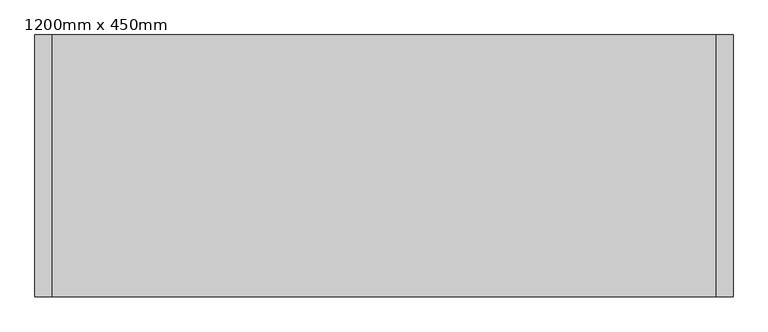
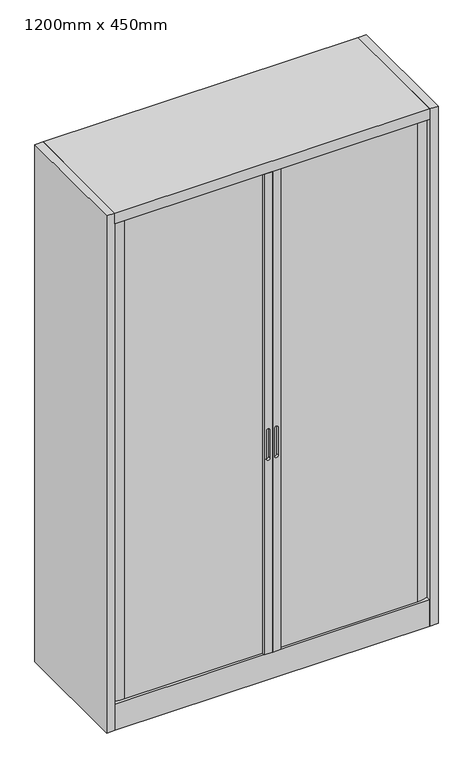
"""IFC4 building model written with IfcOpenShell, lengths in millimetres: furniture geometry."""

from ifc_helpers import new_model, si_unit, point, frame, frame_2d, origin, origin_with_axes, place, context, project, spatial, polyline, circle_curve, trimmed, segment, composite_curve, outline, extrude, source, transform, mapped, element, save
from ifc_brep_helpers import plane_surface, revolved_surface, advanced_brep


def furniture_1200mm_x_450mm_012c86cd(model_context):
    return source(origin(), model_context, "Body", "SolidModel", [
        extrude(outline(polyline([(670.0, 275.0), (670.0, -175.0), (-470.0, -175.0), (-470.0, 275.0), (670.0, 275.0)])), frame((0.0, 0.0, 1940.0), z_axis=(0.0, 0.0, 1.0), x_axis=(1.0, 0.0, 0.0)), (0.0, 0.0, 1.0), 40.0),
        extrude(outline(polyline([(-470.0, -175.0), (-500.0, -175.0), (-500.0, 275.0), (-470.0, 275.0), (-470.0, -175.0)])), origin_with_axes(), (0.0, 0.0, 1.0), 1980.0),
        extrude(outline(polyline([(700.0, 275.0), (700.0, -175.0), (670.0, -175.0), (670.0, 275.0), (700.0, 275.0)])), origin_with_axes(), (0.0, 0.0, 1.0), 1980.0),
        advanced_brep(
        [(70.0, -155.0, 1940.0), (70.0, -175.0, 1940.0), (99.0, -175.0, 1940.0), (100.0, -174.0, 1940.0), (101.0, -175.0, 1940.0), (130.0, -175.0, 1940.0), (130.0, -155.0, 1940.0), (70.0, -155.0, 100.0), (130.0, -155.0, 100.0), (130.0, -175.0, 100.0), (101.0, -175.0, 100.0), (100.0, -174.0, 100.0), (99.0, -175.0, 100.0), (70.0, -175.0, 100.0), (91.0, -175.0, 954.0), (91.0, -175.0, 846.0), (79.0, -175.0, 846.0), (79.0, -175.0, 954.0), (109.0, -175.0, 846.0), (109.0, -175.0, 954.0), (121.0, -175.0, 954.0), (121.0, -175.0, 846.0), (79.0, -165.0, 846.0), (91.0, -165.0, 846.0), (91.0, -165.0, 954.0), (79.0, -165.0, 954.0), (109.0, -165.0, 954.0), (109.0, -165.0, 846.0), (121.0, -165.0, 846.0), (121.0, -165.0, 954.0)],
        [
            (0, 1),
            (1, 2),
            (2, 3),
            (3, 4),
            (4, 5),
            (5, 6),
            (6, 0),
            (7, 8),
            (8, 9),
            (9, 10),
            (10, 11),
            (11, 12),
            (12, 13),
            (13, 7),
            (0, 7),
            (13, 1),
            (12, 2),
            (14, 15),
            (15, 16, circle_curve(frame((85.0, -175.0, 846.0), z_axis=(0.0, 1.0, 0.0), x_axis=(1.0, 0.0, 0.0)), 6.0)),
            (16, 17),
            (17, 14, circle_curve(frame((85.0, -175.0, 954.0), z_axis=(0.0, 1.0, 0.0), x_axis=(1.0, 0.0, 0.0)), 6.0)),
            (11, 3),
            (10, 4),
            (9, 5),
            (18, 19),
            (19, 20, circle_curve(frame((115.0, -175.0, 954.0), z_axis=(0.0, 1.0, 0.0), x_axis=(1.0, 0.0, 0.0)), 6.0)),
            (20, 21),
            (21, 18, circle_curve(frame((115.0, -175.0, 846.0), z_axis=(0.0, 1.0, 0.0), x_axis=(1.0, 0.0, 0.0)), 6.0)),
            (8, 6),
            (22, 23, circle_curve(frame((85.0, -165.0, 846.0), z_axis=(0.0, -1.0, 0.0), x_axis=(1.0, 0.0, 0.0)), 6.0)),
            (23, 24),
            (24, 25, circle_curve(frame((85.0, -165.0, 954.0), z_axis=(0.0, -1.0, 0.0), x_axis=(1.0, 0.0, 0.0)), 6.0)),
            (25, 22),
            (26, 27),
            (27, 28, circle_curve(frame((115.0, -165.0, 846.0), z_axis=(0.0, -1.0, 0.0), x_axis=(1.0, 0.0, 0.0)), 6.0)),
            (28, 29),
            (29, 26, circle_curve(frame((115.0, -165.0, 954.0), z_axis=(0.0, -1.0, 0.0), x_axis=(1.0, 0.0, 0.0)), 6.0)),
            (22, 16),
            (15, 23),
            (14, 24),
            (17, 25),
            (26, 19),
            (18, 27),
            (21, 28),
            (20, 29),
        ],
        [
            plane_surface(frame((70.0, -175.0, 1940.0), z_axis=(0.0, 0.0, 1.0), x_axis=(0.0, -1.0, 0.0))),
            plane_surface(frame((70.0, -175.0, 100.0), z_axis=(0.0, 0.0, -1.0), x_axis=(0.0, 1.0, 0.0))),
            plane_surface(frame((70.0, -155.0, 1940.0), z_axis=(-1.0, 0.0, 0.0), x_axis=(0.0, 0.0, -1.0))),
            plane_surface(frame((70.0, -175.0, 1940.0), z_axis=(0.0, -1.0, 0.0), x_axis=(0.0, 0.0, -1.0))),
            plane_surface(frame((99.0, -175.0, 1940.0), z_axis=(0.7071067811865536, -0.7071067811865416, 0.0), x_axis=(0.0, 0.0, -1.0))),
            plane_surface(frame((100.0, -174.0, 1940.0), z_axis=(-0.7071067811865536, -0.7071067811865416, 0.0), x_axis=(0.0, 0.0, -1.0))),
            plane_surface(frame((101.0, -175.0, 1940.0), z_axis=(0.0, -1.0, 0.0), x_axis=(0.0, 0.0, -1.0))),
            plane_surface(frame((130.0, -175.0, 1940.0), z_axis=(1.0, 0.0, 0.0), x_axis=(0.0, 0.0, -1.0))),
            plane_surface(frame((130.0, -155.0, 1940.0), z_axis=(0.0, 1.0, 0.0), x_axis=(0.0, 0.0, -1.0))),
            plane_surface(frame((91.0, -165.0, 846.0), z_axis=(0.0, -1.0, 0.0), x_axis=(0.0, 0.0, -1.0))),
            revolved_surface(polyline([(91.0, -175.0, 846.0), (91.0, -165.0, 846.0)]), (85.0, -165.0, 846.0), (0.0, -1.0, 0.0)),
            plane_surface(frame((91.0, -175.0, 846.0), z_axis=(-1.0, 0.0, 0.0), x_axis=(0.0, 1.0, 0.0))),
            revolved_surface(polyline([(91.0, -175.0, 954.0), (91.0, -165.0, 954.0)]), (85.0, -165.0, 954.0), (0.0, -1.0, 0.0)),
            plane_surface(frame((79.0, -175.0, 954.0), z_axis=(1.0, 0.0, 0.0), x_axis=(0.0, 1.0, 0.0))),
            plane_surface(frame((109.0, -175.0, 954.0), z_axis=(1.0, 0.0, 0.0), x_axis=(0.0, 1.0, 0.0))),
            revolved_surface(polyline([(121.0, -175.0, 846.0), (121.0, -165.0, 846.0)]), (115.0, -175.0, 846.0), (0.0, -1.0, 0.0)),
            plane_surface(frame((121.0, -175.0, 846.0), z_axis=(-1.0, 0.0, 0.0), x_axis=(0.0, 1.0, 0.0))),
            revolved_surface(polyline([(121.0, -175.0, 954.0), (121.0, -165.0, 954.0)]), (115.0, -175.0, 954.0), (0.0, -1.0, 0.0)),
        ],
        [
            (0, [[1, 2, 3, 4, 5, 6, 7]]),
            (1, [[8, 9, 10, 11, 12, 13, 14]]),
            (2, [[-1, 15, -14, 16]]),
            (3, [[-2, -16, -13, 17], [18, 19, 20, 21]]),
            (4, [[-3, -17, -12, 22]]),
            (5, [[-4, -22, -11, 23]]),
            (6, [[-5, -23, -10, 24], [25, 26, 27, 28]]),
            (7, [[-6, -24, -9, 29]]),
            (8, [[-7, -29, -8, -15]]),
            (9, [[30, 31, 32, 33]]),
            (9, [[34, 35, 36, 37]]),
            (10, [[-30, 38, -19, 39]]),
            (11, [[-31, -39, -18, 40]]),
            (12, [[-32, -40, -21, 41]]),
            (13, [[-33, -41, -20, -38]]),
            (14, [[-34, 42, -25, 43]]),
            (15, [[-35, -43, -28, 44]]),
            (16, [[-36, -44, -27, 45]]),
            (17, [[-37, -45, -26, -42]]),
        ],
    ),
        extrude(outline(composite_curve([segment(polyline([(-430.0, -157.0), (70.0, -157.0), (70.0, -165.0), (-430.0, -165.0)]), True, "CONTINUOUS"), segment(trimmed(circle_curve(frame_2d((-430.0, -61.0)), 104.0), [point((-430.0, -165.0))], [point((-470.0, -157.0))], False, "CARTESIAN"), True, "CONTINUOUS"), segment(polyline([(-470.0, -157.0), (-470.0, -148.2696969)]), True, "CONTINUOUS"), segment(trimmed(circle_curve(frame_2d((-430.0, -61.0)), 96.0), [point((-470.0, -148.2696969))], [point((-430.0, -157.0))], True, "CARTESIAN"), True, "CONTINUOUS")], self_intersect=False)), frame((0.0, 0.0, 100.0), z_axis=(0.0, 0.0, 1.0), x_axis=(1.0, 0.0, 0.0)), (0.0, 0.0, 1.0), 1840.0),
        extrude(outline(composite_curve([segment(trimmed(circle_curve(frame_2d((630.0, -61.0)), 96.0), [point((630.0, -157.0))], [point((670.0, -148.2696969))], True, "CARTESIAN"), True, "CONTINUOUS"), segment(polyline([(670.0, -148.2696969), (670.0, -157.0)]), True, "CONTINUOUS"), segment(trimmed(circle_curve(frame_2d((630.0, -61.0)), 104.0), [point((670.0, -157.0))], [point((630.0, -165.0))], False, "CARTESIAN"), True, "CONTINUOUS"), segment(polyline([(630.0, -165.0), (130.0, -165.0), (130.0, -157.0), (630.0, -157.0)]), True, "CONTINUOUS")], self_intersect=False)), frame((0.0, 0.0, 100.0), z_axis=(0.0, 0.0, 1.0), x_axis=(1.0, 0.0, 0.0)), (0.0, 0.0, 1.0), 1840.0),
        extrude(outline(polyline([(670.0, 275.0), (670.0, 260.0), (-470.0, 260.0), (-470.0, 275.0), (670.0, 275.0)])), frame((0.0, 0.0, 100.0), z_axis=(0.0, 0.0, 1.0), x_axis=(1.0, 0.0, 0.0)), (0.0, 0.0, 1.0), 1840.0),
        extrude(outline(polyline([(670.0, -175.0), (-470.0, -175.0), (-470.0, 275.0), (670.0, 275.0), (670.0, -175.0)])), origin_with_axes(), (0.0, 0.0, 1.0), 100.0),
    ])


if __name__ == "__main__":
    model = new_model("IFC4")
    model_context = context("Model", 3, world=origin())
    ifc_project = project(units=[si_unit("LENGTHUNIT", "METRE", prefix="MILLI")], contexts=[model_context])
    site = spatial("IfcSite", under=ifc_project)
    building = spatial("IfcBuilding", under=site)
    placement = place(None, origin())
    furniture_1200mm_x_450mm_shape = furniture_1200mm_x_450mm_012c86cd(model_context)
    element("IfcFurniture", 1, ObjectType="Armoire monobloc Ã\xa0 rideaux : 1200mm x 450mm", at=placement, inside=building, context=model_context, shape_type="MappedRepresentation", body=[
        mapped(furniture_1200mm_x_450mm_shape, transform((0.0, 0.0, 0.0), x_axis=(1.0, 0.0, 0.0), y_axis=(0.0, 1.0, 0.0), z_axis=(0.0, 0.0, 1.0))),
    ])
    save(model, "model.ifc")
